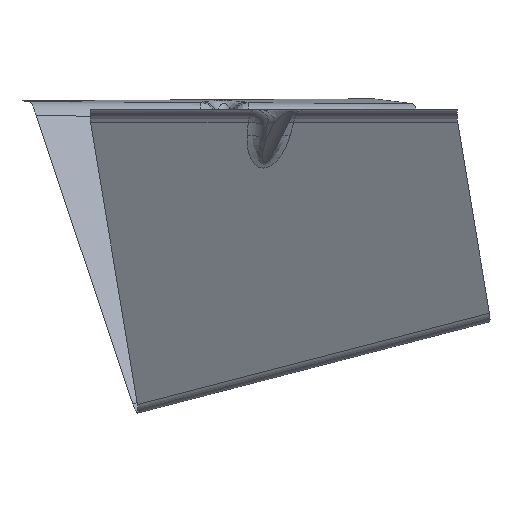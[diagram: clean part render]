
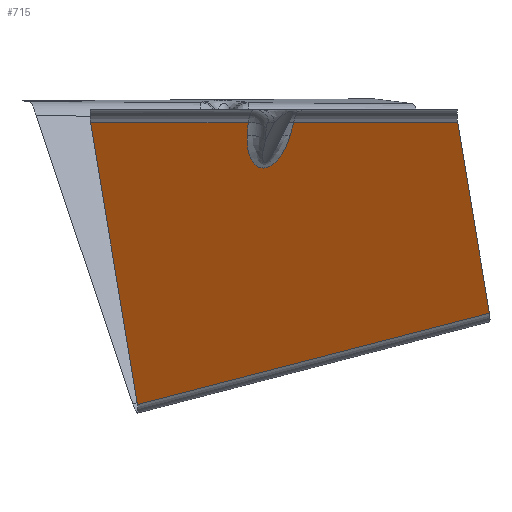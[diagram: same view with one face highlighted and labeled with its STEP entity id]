
A CAD part, left-side view. The second image highlights one B-rep face of the part: STEP entity #715.
In plain terms, the highlighted planar face has unit normal (-0.83, -0.249, -0.5).
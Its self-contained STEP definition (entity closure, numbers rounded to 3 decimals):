
#254=CARTESIAN_POINT('Vertex',(-85.849,7.092,-1.4)) ;
#277=CARTESIAN_POINT('Line Origine',(-68.713,9.105,-30.832)) ;
#281=CARTESIAN_POINT('Vertex',(-83.811,7.331,-4.901)) ;
#597=CARTESIAN_POINT('Control Point',(-80.302,-4.365,-4.901)) ;
#598=CARTESIAN_POINT('Control Point',(-80.098,-4.263,-5.29)) ;
#599=CARTESIAN_POINT('Control Point',(-79.897,-4.15,-5.68)) ;
#600=CARTESIAN_POINT('Control Point',(-79.699,-4.026,-6.069)) ;
#601=CARTESIAN_POINT('Control Point',(-79.317,-3.762,-6.834)) ;
#602=CARTESIAN_POINT('Control Point',(-78.951,-3.454,-7.595)) ;
#603=CARTESIAN_POINT('Control Point',(-78.775,-3.29,-7.969)) ;
#604=CARTESIAN_POINT('Control Point',(-78.447,-2.956,-8.679)) ;
#605=CARTESIAN_POINT('Control Point',(-78.139,-2.573,-9.381)) ;
#606=CARTESIAN_POINT('Control Point',(-77.997,-2.378,-9.714)) ;
#607=CARTESIAN_POINT('Control Point',(-77.743,-1.992,-10.327)) ;
#608=CARTESIAN_POINT('Control Point',(-77.513,-1.555,-10.926)) ;
#609=CARTESIAN_POINT('Control Point',(-77.412,-1.34,-11.2)) ;
#610=CARTESIAN_POINT('Control Point',(-77.242,-0.925,-11.69)) ;
#611=CARTESIAN_POINT('Control Point',(-77.1,-0.458,-12.158)) ;
#612=CARTESIAN_POINT('Control Point',(-77.043,-0.236,-12.362)) ;
#613=CARTESIAN_POINT('Control Point',(-76.938,0.275,-12.791)) ;
#614=CARTESIAN_POINT('Control Point',(-76.883,0.858,-13.172)) ;
#615=CARTESIAN_POINT('Control Point',(-76.872,1.201,-13.361)) ;
#616=CARTESIAN_POINT('Control Point',(-76.895,1.728,-13.586)) ;
#617=CARTESIAN_POINT('Control Point',(-76.986,2.296,-13.717)) ;
#618=CARTESIAN_POINT('Control Point',(-77.021,2.47,-13.746)) ;
#619=CARTESIAN_POINT('Control Point',(-77.099,2.802,-13.781)) ;
#620=CARTESIAN_POINT('Control Point',(-77.201,3.13,-13.775)) ;
#621=CARTESIAN_POINT('Control Point',(-77.254,3.282,-13.764)) ;
#622=CARTESIAN_POINT('Control Point',(-77.363,3.567,-13.724)) ;
#623=CARTESIAN_POINT('Control Point',(-77.486,3.836,-13.655)) ;
#624=CARTESIAN_POINT('Control Point',(-77.547,3.96,-13.615)) ;
#625=CARTESIAN_POINT('Control Point',(-77.838,4.515,-13.409)) ;
#626=CARTESIAN_POINT('Control Point',(-78.161,4.973,-13.1)) ;
#627=CARTESIAN_POINT('Control Point',(-78.419,5.278,-12.825)) ;
#628=CARTESIAN_POINT('Control Point',(-78.852,5.724,-12.328)) ;
#629=CARTESIAN_POINT('Control Point',(-79.281,6.075,-11.791)) ;
#630=CARTESIAN_POINT('Control Point',(-79.456,6.206,-11.565)) ;
#631=CARTESIAN_POINT('Control Point',(-79.853,6.476,-11.041)) ;
#632=CARTESIAN_POINT('Control Point',(-80.243,6.691,-10.501)) ;
#633=CARTESIAN_POINT('Control Point',(-80.46,6.797,-10.194)) ;
#634=CARTESIAN_POINT('Control Point',(-80.943,7.005,-9.497)) ;
#635=CARTESIAN_POINT('Control Point',(-81.415,7.153,-8.787)) ;
#636=CARTESIAN_POINT('Control Point',(-81.675,7.219,-8.389)) ;
#637=CARTESIAN_POINT('Control Point',(-82.271,7.338,-7.459)) ;
#638=CARTESIAN_POINT('Control Point',(-82.851,7.382,-6.519)) ;
#639=CARTESIAN_POINT('Control Point',(-83.176,7.386,-5.981)) ;
#640=CARTESIAN_POINT('Control Point',(-83.496,7.368,-5.441)) ;
#641=CARTESIAN_POINT('Control Point',(-83.811,7.331,-4.901)) ;
#642=CARTESIAN_POINT('Vertex',(-80.302,-4.365,-4.901)) ;
#660=CARTESIAN_POINT('Axis2P3D Location',(-38.383,-11.515,-70.886)) ;
#665=CARTESIAN_POINT('Line Origine',(-81.219,-4.826,-3.15)) ;
#669=CARTESIAN_POINT('Vertex',(-82.135,-5.287,-1.4)) ;
#672=CARTESIAN_POINT('Line Origine',(-92.287,28.552,-1.4)) ;
#676=CARTESIAN_POINT('Vertex',(-98.726,50.013,-1.4)) ;
#679=CARTESIAN_POINT('Line Origine',(-73.67,43.643,-39.797)) ;
#683=CARTESIAN_POINT('Vertex',(-48.615,37.273,-78.193)) ;
#686=CARTESIAN_POINT('Line Origine',(-41.734,-10.663,-65.751)) ;
#690=CARTESIAN_POINT('Vertex',(-34.853,-58.599,-53.308)) ;
#693=CARTESIAN_POINT('Line Origine',(-51.789,-54.293,-27.354)) ;
#697=CARTESIAN_POINT('Vertex',(-68.726,-49.987,-1.4)) ;
#700=CARTESIAN_POINT('Line Origine',(-75.431,-27.637,-1.4)) ;
#278=DIRECTION('Vector Direction',(0.502,0.059,-0.863)) ;
#661=DIRECTION('Axis2P3D Direction',(0.83,0.249,0.5)) ;
#662=DIRECTION('Axis2P3D XDirection',(0.541,-0.138,-0.83)) ;
#666=DIRECTION('Vector Direction',(-0.452,-0.227,0.863)) ;
#673=DIRECTION('Vector Direction',(0.287,-0.958,0.)) ;
#680=DIRECTION('Vector Direction',(0.541,-0.138,-0.83)) ;
#687=DIRECTION('Vector Direction',(0.138,-0.959,0.249)) ;
#694=DIRECTION('Vector Direction',(-0.541,0.138,0.83)) ;
#701=DIRECTION('Vector Direction',(0.287,-0.958,0.)) ;
#663=AXIS2_PLACEMENT_3D('Plane Axis2P3D',#660,#661,#662) ;
#706=ORIENTED_EDGE('',*,*,#671,.T.) ;
#707=ORIENTED_EDGE('',*,*,#644,.T.) ;
#708=ORIENTED_EDGE('',*,*,#283,.T.) ;
#709=ORIENTED_EDGE('',*,*,#678,.F.) ;
#710=ORIENTED_EDGE('',*,*,#685,.T.) ;
#711=ORIENTED_EDGE('',*,*,#692,.T.) ;
#712=ORIENTED_EDGE('',*,*,#699,.T.) ;
#713=ORIENTED_EDGE('',*,*,#704,.F.) ;
#279=VECTOR('Line Direction',#278,1.) ;
#667=VECTOR('Line Direction',#666,1.) ;
#674=VECTOR('Line Direction',#673,1.) ;
#681=VECTOR('Line Direction',#680,1.) ;
#688=VECTOR('Line Direction',#687,1.) ;
#695=VECTOR('Line Direction',#694,1.) ;
#702=VECTOR('Line Direction',#701,1.) ;
#715=ADVANCED_FACE('Extract.1',(#714),#664,.F.) ;
#596=B_SPLINE_CURVE_WITH_KNOTS('',5,(#597,#598,#599,#600,#601,#602,#603,#604,#605,#606,#607,#608,#609,#610,#611,#612,#613,#614,#615,#616,#617,#618,#619,#620,#621,#622,#623,#624,#625,#626,#627,#628,#629,#630,#631,#632,#633,#634,#635,#636,#637,#638,#639,#640,#641),.UNSPECIFIED.,.F.,.U.,(6,3,3,3,3,3,3,3,3,3,3,3,3,3,6),(21.843,24.854,27.779,30.445,32.747,34.628,36.825,37.779,38.623,39.403,42.218,44.185,46.697,49.833,54.008),.UNSPECIFIED.) ;
#283=EDGE_CURVE('',#282,#255,#280,.F.) ;
#644=EDGE_CURVE('',#643,#282,#596,.T.) ;
#671=EDGE_CURVE('',#670,#643,#668,.F.) ;
#678=EDGE_CURVE('',#677,#255,#675,.T.) ;
#685=EDGE_CURVE('',#677,#684,#682,.T.) ;
#692=EDGE_CURVE('',#684,#691,#689,.T.) ;
#699=EDGE_CURVE('',#691,#698,#696,.T.) ;
#704=EDGE_CURVE('',#670,#698,#703,.T.) ;
#705=EDGE_LOOP('',(#706,#707,#708,#709,#710,#711,#712,#713)) ;
#714=FACE_OUTER_BOUND('',#705,.T.) ;
#280=LINE('Line',#277,#279) ;
#668=LINE('Line',#665,#667) ;
#675=LINE('Line',#672,#674) ;
#682=LINE('Line',#679,#681) ;
#689=LINE('Line',#686,#688) ;
#696=LINE('Line',#693,#695) ;
#703=LINE('Line',#700,#702) ;
#664=PLANE('',#663) ;
#255=VERTEX_POINT('',#254) ;
#282=VERTEX_POINT('',#281) ;
#643=VERTEX_POINT('',#642) ;
#670=VERTEX_POINT('',#669) ;
#677=VERTEX_POINT('',#676) ;
#684=VERTEX_POINT('',#683) ;
#691=VERTEX_POINT('',#690) ;
#698=VERTEX_POINT('',#697) ;
